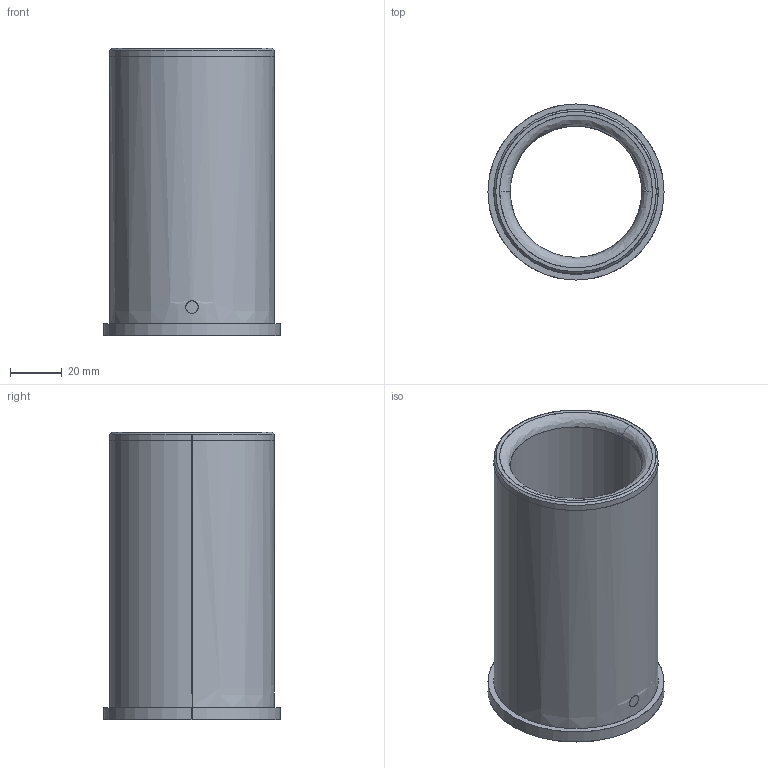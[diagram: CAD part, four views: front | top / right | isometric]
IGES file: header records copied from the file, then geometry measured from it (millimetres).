
Start section: SolidWorks IGES file using analytic representation for surfaces
Global section: file name: D:\Current\W2\S2000-35G.igs; native system: SolidWorks 2017; preprocessor: SolidWorks 2017; author: Ravi Kalvai; date: 240723.145306; units: inch
Bounding box: 68 x 68 x 111.12 mm (x, y, z)
Surface area: 42678.4 mm2 (no closed solid volume)
Topology: 0 solids, 0 shells, 21 faces, 626 edges, 626 vertices
Faces by surface type: revolution 13, bspline 8
